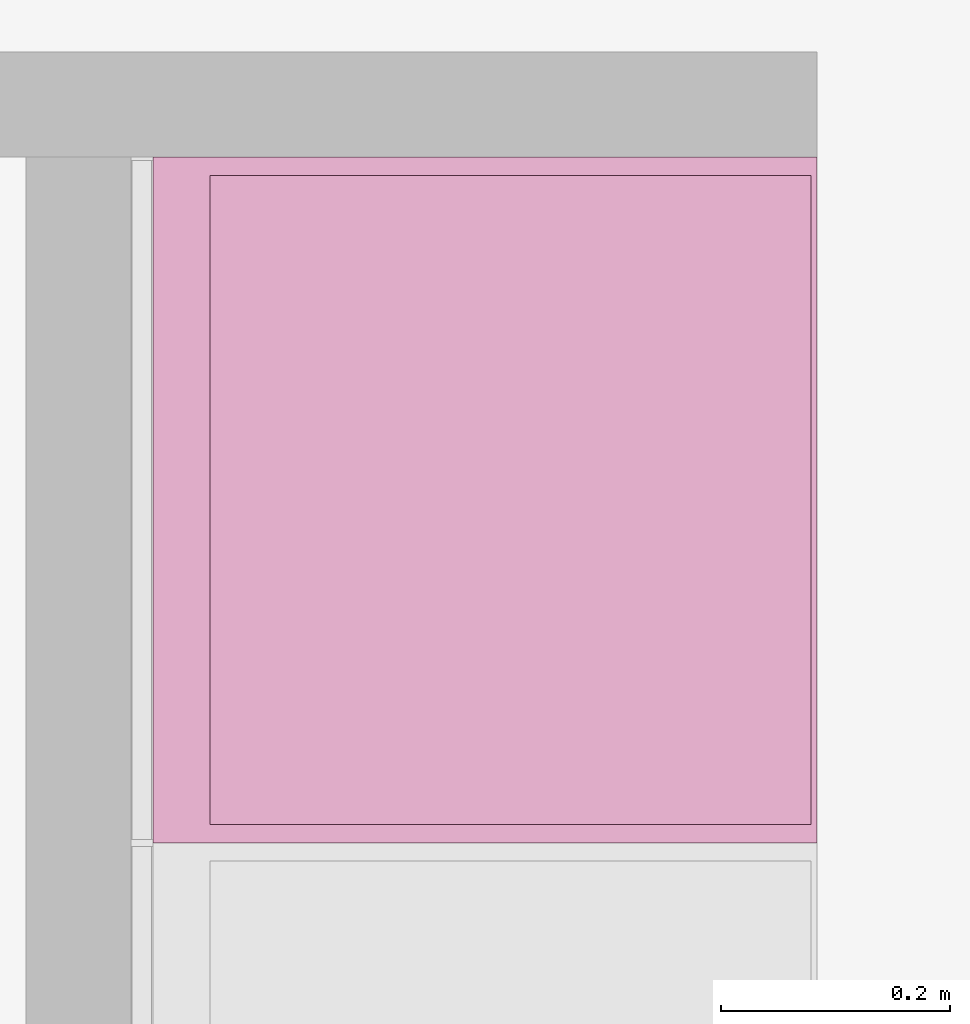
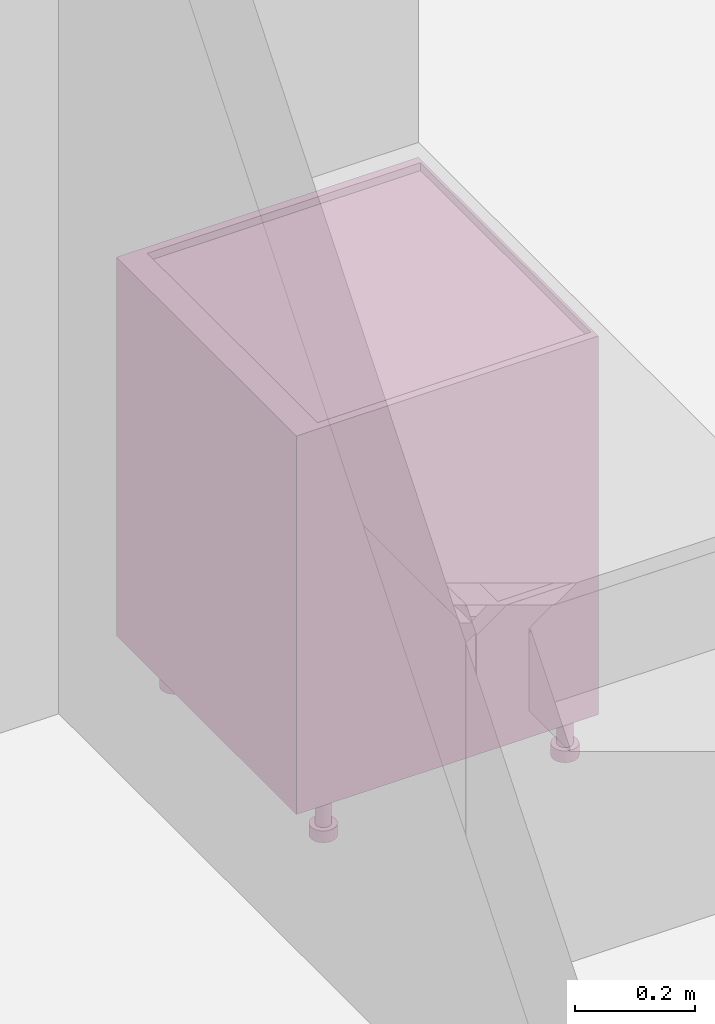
# One storey, part 74 of 125: 1 furnishing.
"""IFC2X3 building model written with IfcOpenShell, lengths in millimetres."""

import ifcopenshell
import ifcopenshell.guid

model = None  # the IFC model being written
_history = None  # IfcOwnerHistory: only IFC2X3 demands one
_inside = {}  # id of a spatial element -> (the spatial element, [elements in it])
_under = {}  # id of a project, library or spatial element -> (it, [spatial elements below it])
_declared = {}  # id of a project -> (the project, [libraries it declares])
_typed = {}  # id of a type object -> (the type object, [elements of that type])
_made_of = {}  # id of a material, layer set ... -> (it, [elements and type objects made of it])


def new_model(schema):
    """Start an empty IFC model of exactly this schema.

    Asked for "IFC4X3", IfcOpenShell would pick the latest addendum, in which some entities
    have other attributes; the version numbers below select the first issue.
    IFC2X3 requires an IfcOwnerHistory on every rooted entity: one is made here for all.
    """
    global model, _history
    if schema == "IFC4X3":
        model = ifcopenshell.file(schema_version=(4, 3, 0, 0))
    else:
        model = ifcopenshell.file(schema=schema)
    _inside.clear()
    _under.clear()
    _declared.clear()
    _typed.clear()
    _made_of.clear()
    _history = None
    if model.schema == "IFC2X3":
        org = make("IfcOrganization", Name="unknown")
        user = make(
            "IfcPersonAndOrganization",
            ThePerson=make("IfcPerson", FamilyName="unknown"),
            TheOrganization=org,
        )
        app = make(
            "IfcApplication",
            ApplicationDeveloper=org,
            Version="unknown",
            ApplicationFullName="unknown",
            ApplicationIdentifier="unknown",
        )
        _history = make(
            "IfcOwnerHistory",
            OwningUser=user,
            OwningApplication=app,
            ChangeAction="ADDED",
            CreationDate=0,
        )
    return model


def make(cls, **values):
    """One entity of the class cls with the attributes given. An attribute that is None is left unset."""
    return model.create_entity(
        cls, **{name: value for name, value in values.items() if value is not None}
    )


def entity(cls, *values):
    """Any entity or typed value of the class cls, its attributes in the order of the schema. None: left unset."""
    e = model.create_entity(cls)
    for i, value in enumerate(values):
        if value is not None:
            e[i] = value
    return e


def rooted(cls, **values):
    """An entity with a GlobalId (a new one), such as an element, a storey or a relation."""
    return make(cls, GlobalId=ifcopenshell.guid.new(), OwnerHistory=_history, **values)


def si_unit(unit_type, name, prefix=None):
    """IfcSIUnit, for example si_unit("LENGTHUNIT", "METRE", prefix="MILLI")."""
    return make("IfcSIUnit", UnitType=unit_type, Prefix=prefix, Name=name)


def converted_unit(unit_type, name, factor, base, dimensions=None, offset=None):
    """IfcConversionBasedUnit, such as the inch: factor (a typed value) times the base unit."""
    return make(
        "IfcConversionBasedUnit"
        if offset is None
        else "IfcConversionBasedUnitWithOffset",
        ConversionOffset=offset,
        Dimensions=None
        if dimensions is None
        else entity("IfcDimensionalExponents", *dimensions),
        UnitType=unit_type,
        Name=name,
        ConversionFactor=make(
            "IfcMeasureWithUnit", ValueComponent=factor, UnitComponent=base
        ),
    )


def assignment(units):
    """IfcUnitAssignment: the units of a project."""
    return None if units is None else make("IfcUnitAssignment", Units=units)


def point(xyz):
    """IfcCartesianPoint."""
    return None if xyz is None else make("IfcCartesianPoint", Coordinates=xyz)


def direction(xyz):
    """IfcDirection."""
    return None if xyz is None else make("IfcDirection", DirectionRatios=xyz)


def frame(location, z_axis=None, x_axis=None):
    """IfcAxis2Placement3D, a coordinate frame: its origin and axes. An axis left out is left unset."""
    return make(
        "IfcAxis2Placement3D",
        Location=point(location),
        Axis=direction(z_axis),
        RefDirection=direction(x_axis),
    )


def origin():
    """The frame at (0, 0, 0) with its axes left unset."""
    return frame((0.0, 0.0, 0.0))


def place(relative_to, where):
    """IfcLocalPlacement: puts the frame where relative to a parent placement (None: the world)."""
    return make(
        "IfcLocalPlacement", PlacementRelTo=relative_to, RelativePlacement=where
    )


def context(
    kind, dimensions, precision=None, world=None, true_north=None, identifier=None
):
    """IfcGeometricRepresentationContext, for example the 3D "Model" context."""
    return make(
        "IfcGeometricRepresentationContext",
        ContextIdentifier=identifier,
        ContextType=kind,
        CoordinateSpaceDimension=dimensions,
        Precision=precision,
        WorldCoordinateSystem=world,
        TrueNorth=true_north,
    )


def subcontext(parent, identifier, kind, view, scale=None):
    """IfcGeometricRepresentationSubContext, for example "Body" below "Model"."""
    return make(
        "IfcGeometricRepresentationSubContext",
        ContextIdentifier=identifier,
        ContextType=kind,
        ParentContext=parent,
        TargetScale=scale,
        TargetView=view,
    )


def project(units=None, contexts=None):
    """IfcProject with its units and contexts."""
    return rooted(
        "IfcProject",
        Name="project",
        RepresentationContexts=contexts,
        UnitsInContext=assignment(units),
    )


def spatial(cls, under=None, at=None, **own):
    """A site, building, storey or space (cls), placed at a placement, below another one or the project."""
    s = rooted(cls, ObjectPlacement=at, **own)
    if under is not None:
        _under.setdefault(under.id(), (under, []))[1].append(s)
    return s


def faces_of(points, faces, orient=None, outer=None):
    """IfcFace entities. A face is a list of loops; a loop is a list of indices into points, from 0.

    orient and outer hold one flag for each loop. By default every Orientation is true, the
    first loop of a face is its IfcFaceOuterBound and the others are IfcFaceBound.
    """
    made = []
    for i, loops in enumerate(faces):
        bounds = []
        for j, loop in enumerate(loops):
            is_outer = j == 0 if outer is None else outer[i][j]
            bounds.append(
                make(
                    "IfcFaceOuterBound" if is_outer else "IfcFaceBound",
                    Bound=make("IfcPolyLoop", Polygon=[points[k] for k in loop]),
                    Orientation=True if orient is None else orient[i][j],
                )
            )
        made.append(make("IfcFace", Bounds=bounds))
    return made


def faceted_brep(points, faces, orient=None, outer=None, voids=None):
    """IfcFacetedBrep: a solid bounded by flat faces; with voids (closed shells), ...WithVoids."""
    shared = [point(p) for p in points]
    hull = make("IfcClosedShell", CfsFaces=faces_of(shared, faces, orient, outer))
    if voids is None:
        return make("IfcFacetedBrep", Outer=hull)
    return make(
        "IfcFacetedBrepWithVoids",
        Outer=hull,
        Voids=[
            make(cls, CfsFaces=faces_of(shared, fs, o, b)) for cls, fs, o, b in voids
        ],
    )


def shape(context_of_items, identifier, shape_type, items):
    """IfcShapeRepresentation: the items that make up one representation, for example the "Body"."""
    return make(
        "IfcShapeRepresentation",
        ContextOfItems=context_of_items,
        RepresentationIdentifier=identifier,
        RepresentationType=shape_type,
        Items=items,
    )


def source(mapping_origin, context_of_items, identifier, shape_type, items):
    """IfcRepresentationMap: a shape defined once, which mapped items show again and again."""
    return make(
        "IfcRepresentationMap",
        MappingOrigin=mapping_origin,
        MappedRepresentation=shape(context_of_items, identifier, shape_type, items),
    )


def transform(
    local_origin,
    x_axis=None,
    y_axis=None,
    z_axis=None,
    scale=None,
    scale2=None,
    scale3=None,
    uniform=True,
):
    """IfcCartesianTransformationOperator3D, or its non-uniform kind. x_axis, y_axis, z_axis: its Axis1, 2, 3."""
    if uniform:
        return make(
            "IfcCartesianTransformationOperator3D",
            Axis1=direction(x_axis),
            Axis2=direction(y_axis),
            LocalOrigin=point(local_origin),
            Scale=scale,
            Axis3=direction(z_axis),
        )
    return make(
        "IfcCartesianTransformationOperator3DnonUniform",
        Axis1=direction(x_axis),
        Axis2=direction(y_axis),
        LocalOrigin=point(local_origin),
        Scale=scale,
        Axis3=direction(z_axis),
        Scale2=scale2,
        Scale3=scale3,
    )


def mapped(mapping_source, mapping_target):
    """IfcMappedItem: shows the shape of a source again, moved by a transform."""
    return make(
        "IfcMappedItem", MappingSource=mapping_source, MappingTarget=mapping_target
    )


def material(Name=None, Category=None):
    """IfcMaterial."""
    return make("IfcMaterial", Name=Name, Category=Category)


def made_of(thing, what):
    """Note that an element or type object is made of a material, layer set ...; save() writes the relation."""
    if what is not None:
        _made_of.setdefault(what.id(), (what, []))[1].append(thing)
    return thing


def type_object(cls, material=None, **own):
    """A type object (cls), such as IfcWallType, which elements share."""
    return made_of(rooted(cls, **own), material)


def type_shapes(of_type, sources):
    """Give a type object the sources (RepresentationMaps) that its elements show as mapped items."""
    of_type.RepresentationMaps = sources


def element(
    cls,
    number,
    at=None,
    inside=None,
    cuts=None,
    type_object=None,
    material=None,
    context=None,
    identifier="Body",
    shape_type=None,
    held_by="IfcProductDefinitionShape",
    body=None,
    shapes=None,
    **own,
):
    """One element of the class cls, such as IfcWall. Its Tag is "e" and its number.

    at: its placement. inside: the storey or other place that contains it. cuts: it is an
    opening in that element (IfcRelVoidsElement). A single representation is given by context,
    identifier, shape_type and body (its items); several are given by shapes. held_by: the class
    of the entity that holds the representations. save() writes the other relations.
    """
    e = rooted(cls, Tag="e%d" % number, ObjectPlacement=at, **own)
    if body is not None:
        shapes = [shape(context, identifier, shape_type, body)]
    if shapes is not None:
        e.Representation = make(held_by, Representations=shapes)
    if inside is not None:
        _inside.setdefault(inside.id(), (inside, []))[1].append(e)
    if cuts is not None:
        rooted(
            "IfcRelVoidsElement", RelatingBuildingElement=cuts, RelatedOpeningElement=e
        )
    if type_object is not None:
        _typed.setdefault(type_object.id(), (type_object, []))[1].append(e)
    return made_of(e, material)


def aggregate(whole, parts):
    """IfcRelAggregates: a whole, such as a stair, and the parts it consists of."""
    return rooted("IfcRelAggregates", RelatingObject=whole, RelatedObjects=parts)


def save(model, path):
    """Write the relations noted so far, then the file.

    IfcRelAggregates (storeys below a building ...), IfcRelContainedInSpatialStructure (elements
    in a storey), IfcRelDefinesByType, IfcRelAssociatesMaterial and IfcRelDeclares: one each for
    every whole, place, type object, material and project.
    """
    for whole, parts in _under.values():
        aggregate(whole, parts)
    for where, things in _inside.values():
        rooted(
            "IfcRelContainedInSpatialStructure",
            RelatedElements=things,
            RelatingStructure=where,
        )
    for kind, things in _typed.values():
        rooted("IfcRelDefinesByType", RelatedObjects=things, RelatingType=kind)
    for what, things in _made_of.values():
        rooted("IfcRelAssociatesMaterial", RelatedObjects=things, RelatingMaterial=what)
    for by, libraries in _declared.values():
        rooted("IfcRelDeclares", RelatingContext=by, RelatedDefinitions=libraries)
    model.write(path)


model = new_model("IFC2X3")

# Units and contexts
model_context = context("Model", 3, precision=0.01, world=origin(), true_north=direction((6.123233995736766e-17, 1.0)))
plan_context = context("Plan", 3, precision=0.01, world=origin(), true_north=direction((6.123233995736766e-17, 1.0)))
body_context = subcontext(model_context, "Body", "Model", "MODEL_VIEW")
ifc_project = project(units=[si_unit("LENGTHUNIT", "METRE", prefix="MILLI"), converted_unit("PLANEANGLEUNIT", "DEGREE", entity("IfcPlaneAngleMeasure", 0.017453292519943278), si_unit("PLANEANGLEUNIT", "RADIAN"), dimensions=[0, 0, 0, 0, 0, 0, 0]), si_unit("AREAUNIT", "SQUARE_METRE")], contexts=[model_context, plan_context])

# Site, building, storey, space
site_placement = place(None, origin())
site = spatial("IfcSite", under=ifc_project, at=site_placement, Name="Default", CompositionType="ELEMENT")
building_placement = place(site_placement, origin())
building = spatial("IfcBuilding", under=site, at=building_placement, CompositionType="ELEMENT")
storey_placement = place(building_placement, frame((0.0, 0.0, 3125.0)))
storey = spatial("IfcBuildingStorey", under=building, at=storey_placement, Name="2K", CompositionType="ELEMENT", Elevation=3125.0)
space_placement = place(storey_placement, origin())
space = spatial("IfcSpace", under=storey, at=space_placement, Name="2-2.2", CompositionType="ELEMENT", InteriorOrExteriorSpace="INTERNAL")

# Furnishing
ifc_material = material(Name="<Unnamed>")
furniture_type = type_object("IfcFurnitureType", Name="HR_Casework_Kitchen_Generic_Appliance_v1:Fridge", AssemblyPlace="NOTDEFINED", material=ifc_material)
shared_shape = source(origin(), body_context, "Body", "Brep", [
    faceted_brep([(305.7003264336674, -585.7846096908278, -3101.0), (310.6708891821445, -581.9705627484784, -3101.0), (300.70032643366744, -577.1243556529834, -3101.0), (297.32379306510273, -578.5229615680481, -3101.0), (299.91198351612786, -588.1822198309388, -3101.0), (303.59982137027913, -574.8994949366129, -3101.0), (314.4849361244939, -577.0, -3101.0), (305.82468208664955, -572.0, -3101.0), (307.2232880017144, -568.6234666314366, -3101.0), (316.8825462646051, -571.2116570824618, -3101.0), (307.70032643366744, -565.0, -3101.0), (317.7003264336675, -565.0, -3101.0), (307.2232880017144, -561.3765333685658, -3101.0), (316.88254626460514, -558.7883429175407, -3101.0), (305.82468208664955, -558.0, -3101.0), (314.484936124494, -553.0, -3101.0), (303.59982137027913, -555.1005050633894, -3101.0), (310.67088918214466, -548.0294372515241, -3101.0), (300.70032643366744, -552.875644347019, -3101.0), (305.7003264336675, -544.2153903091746, -3101.0), (297.32379306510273, -551.4770384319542, -3101.0), (299.91198351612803, -541.8177801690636, -3101.0), (293.7003264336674, -551.0, -3101.0), (293.70032643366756, -541.0, -3101.0), (290.07685980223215, -551.4770384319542, -3101.0), (287.488669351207, -541.8177801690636, -3101.0), (286.70032643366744, -552.875644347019, -3101.0), (281.7003264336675, -544.2153903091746, -3101.0), (283.80083149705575, -555.1005050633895, -3101.0), (276.7297636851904, -548.029437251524, -3101.0), (281.5759707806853, -558.0, -3101.0), (272.91571674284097, -553.0, -3101.0), (270.51810660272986, -558.7883429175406, -3101.0), (280.1773648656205, -561.3765333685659, -3101.0), (269.7003264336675, -565.0, -3101.0), (279.7003264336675, -565.0, -3101.0), (270.51810660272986, -571.2116570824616, -3101.0), (280.1773648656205, -568.6234666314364, -3101.0), (272.9157167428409, -577.0, -3101.0), (281.57597078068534, -572.0, -3101.0), (276.7297636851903, -581.9705627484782, -3101.0), (283.80083149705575, -574.8994949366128, -3101.0), (281.70032643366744, -585.7846096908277, -3101.0), (286.70032643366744, -577.1243556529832, -3101.0), (287.4886693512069, -588.1822198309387, -3101.0), (290.07685980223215, -578.5229615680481, -3101.0), (293.7003264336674, -589.0, -3101.0), (293.70032643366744, -579.0, -3101.0), (299.91198351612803, -541.8177801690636, -3125.0), (305.7003264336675, -544.2153903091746, -3125.0), (310.67088918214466, -548.0294372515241, -3125.0), (314.484936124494, -553.0, -3125.0), (316.88254626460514, -558.7883429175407, -3125.0), (317.7003264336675, -565.0, -3125.0), (316.8825462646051, -571.2116570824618, -3125.0), (314.4849361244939, -577.0, -3125.0), (310.6708891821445, -581.9705627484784, -3125.0), (305.7003264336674, -585.7846096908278, -3125.0), (299.91198351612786, -588.1822198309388, -3125.0), (293.7003264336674, -589.0, -3125.0), (287.4886693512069, -588.1822198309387, -3125.0), (281.70032643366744, -585.7846096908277, -3125.0), (276.7297636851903, -581.9705627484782, -3125.0), (272.9157167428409, -577.0, -3125.0), (270.51810660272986, -571.2116570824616, -3125.0), (269.7003264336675, -565.0, -3125.0), (270.51810660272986, -558.7883429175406, -3125.0), (272.91571674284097, -553.0, -3125.0), (276.7297636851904, -548.029437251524, -3125.0), (281.7003264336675, -544.2153903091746, -3125.0), (287.488669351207, -541.8177801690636, -3125.0), (293.70032643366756, -541.0, -3125.0), (297.32379306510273, -578.5229615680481, -3025.0), (300.70032643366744, -577.1243556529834, -3025.0), (303.59982137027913, -574.8994949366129, -3025.0), (305.8246820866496, -572.0, -3025.0), (307.2232880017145, -568.6234666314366, -3025.0), (307.70032643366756, -565.0, -3025.0), (307.2232880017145, -561.3765333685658, -3025.0), (305.8246820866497, -558.0, -3025.0), (303.5998213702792, -555.1005050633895, -3025.0), (300.70032643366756, -552.875644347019, -3025.0), (297.32379306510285, -551.4770384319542, -3025.0), (293.70032643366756, -551.0, -3025.0), (290.07685980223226, -551.4770384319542, -3025.0), (286.70032643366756, -552.875644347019, -3025.0), (283.80083149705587, -555.1005050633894, -3025.0), (281.5759707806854, -558.0, -3025.0), (280.1773648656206, -561.3765333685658, -3025.0), (279.70032643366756, -565.0, -3025.0), (280.1773648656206, -568.6234666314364, -3025.0), (281.5759707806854, -572.0, -3025.0), (283.8008314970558, -574.8994949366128, -3025.0), (286.7003264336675, -577.1243556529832, -3025.0), (290.07685980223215, -578.5229615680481, -3025.0), (293.70032643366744, -579.0, -3025.0)], [[[0, 1, 2]], [[0, 2, 3]], [[3, 4, 0]], [[2, 1, 5]], [[6, 5, 1]], [[7, 5, 6]], [[8, 7, 6]], [[8, 6, 9]], [[8, 9, 10]], [[10, 9, 11]], [[12, 10, 11]], [[12, 11, 13]], [[14, 12, 13]], [[14, 13, 15]], [[16, 14, 15]], [[15, 17, 16]], [[17, 18, 16]], [[18, 17, 19]], [[18, 19, 20]], [[21, 20, 19]], [[20, 21, 22]], [[22, 21, 23]], [[23, 24, 22]], [[24, 23, 25]], [[24, 25, 26]], [[27, 26, 25]], [[27, 28, 26]], [[27, 29, 28]], [[30, 28, 29]], [[31, 30, 29]], [[32, 30, 31]], [[33, 30, 32]], [[33, 32, 34]], [[34, 35, 33]], [[36, 35, 34]], [[36, 37, 35]], [[37, 36, 38]], [[39, 37, 38]], [[39, 38, 40]], [[39, 40, 41]], [[40, 42, 41]], [[41, 42, 43]], [[43, 42, 44]], [[44, 45, 43]], [[46, 45, 44]], [[4, 47, 46]], [[45, 46, 47]], [[4, 3, 47]], [[48, 49, 50, 51, 52, 53, 54, 55, 56, 57, 58, 59, 60, 61, 62, 63, 64, 65, 66, 67, 68, 69, 70, 71]], [[64, 36, 34, 65]], [[63, 38, 36, 64]], [[42, 40, 62, 61]], [[63, 62, 40, 38]], [[44, 42, 61, 60]], [[46, 44, 60, 59]], [[58, 4, 46, 59]], [[57, 0, 4, 58]], [[54, 53, 11, 9]], [[1, 0, 57, 56]], [[6, 55, 54, 9]], [[6, 1, 56, 55]], [[52, 13, 11, 53]], [[51, 15, 13, 52]], [[19, 17, 50, 49]], [[51, 50, 17, 15]], [[21, 19, 49, 48]], [[23, 21, 48, 71]], [[27, 69, 68, 29]], [[31, 67, 66, 32]], [[68, 67, 31, 29]], [[32, 66, 65, 34]], [[25, 70, 69, 27]], [[70, 25, 23, 71]], [[72, 73, 74, 75, 76, 77, 78, 79, 80, 81, 82, 83, 84, 85, 86, 87, 88, 89, 90, 91, 92, 93, 94, 95]], [[37, 39, 91, 90]], [[35, 37, 90, 89]], [[43, 45, 94, 93]], [[41, 43, 93, 92]], [[39, 41, 92, 91]], [[47, 95, 94, 45]], [[2, 5, 74, 73]], [[3, 2, 73, 72]], [[8, 10, 77, 76]], [[7, 8, 76, 75]], [[5, 7, 75, 74]], [[3, 72, 95, 47]], [[79, 78, 12, 14]], [[78, 77, 10, 12]], [[80, 16, 18, 81]], [[16, 80, 79, 14]], [[81, 18, 20, 82]], [[22, 83, 82, 20]], [[26, 28, 86, 85]], [[24, 26, 85, 84]], [[33, 35, 89, 88]], [[30, 33, 88, 87]], [[28, 30, 87, 86]], [[24, 84, 83, 22]]]),
    faceted_brep([(-192.29967356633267, -585.7846096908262, -3101.0), (-187.3291108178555, -581.9705627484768, -3101.0), (-197.29967356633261, -577.1243556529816, -3101.0), (-200.67620693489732, -578.5229615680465, -3101.0), (-198.08801648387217, -588.1822198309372, -3101.0), (-194.40017862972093, -574.8994949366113, -3101.0), (-183.51506387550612, -577.0, -3101.0), (-192.17531791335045, -572.0, -3101.0), (-190.77671199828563, -568.6234666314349, -3101.0), (-181.11745373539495, -571.2116570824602, -3101.0), (-190.29967356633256, -565.0, -3101.0), (-180.29967356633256, -565.0, -3101.0), (-190.77671199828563, -561.3765333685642, -3101.0), (-181.11745373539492, -558.788342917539, -3101.0), (-192.17531791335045, -558.0, -3101.0), (-183.515063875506, -553.0, -3101.0), (-194.40017862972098, -555.1005050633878, -3101.0), (-187.3291108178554, -548.0294372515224, -3101.0), (-197.29967356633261, -552.8756443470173, -3101.0), (-192.29967356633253, -544.215390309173, -3101.0), (-200.67620693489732, -551.4770384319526, -3101.0), (-198.08801648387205, -541.8177801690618, -3101.0), (-204.29967356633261, -551.0, -3101.0), (-204.29967356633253, -541.0, -3101.0), (-207.92314019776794, -551.4770384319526, -3101.0), (-210.51133064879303, -541.8177801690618, -3101.0), (-211.29967356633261, -552.8756443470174, -3101.0), (-216.29967356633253, -544.215390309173, -3101.0), (-214.19916850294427, -555.1005050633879, -3101.0), (-221.27023631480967, -548.0294372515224, -3101.0), (-216.42402921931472, -558.0, -3101.0), (-225.08428325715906, -553.0, -3101.0), (-227.48189339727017, -558.788342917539, -3101.0), (-217.8226351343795, -561.3765333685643, -3101.0), (-228.2996735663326, -565.0, -3101.0), (-218.29967356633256, -565.0, -3101.0), (-227.48189339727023, -571.21165708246, -3101.0), (-217.8226351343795, -568.6234666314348, -3101.0), (-225.08428325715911, -577.0, -3101.0), (-216.42402921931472, -572.0, -3101.0), (-221.27023631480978, -581.9705627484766, -3101.0), (-214.19916850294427, -574.8994949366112, -3101.0), (-216.29967356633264, -585.784609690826, -3101.0), (-211.29967356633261, -577.1243556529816, -3101.0), (-210.51133064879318, -588.1822198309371, -3101.0), (-207.9231401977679, -578.5229615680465, -3101.0), (-204.2996735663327, -589.0, -3101.0), (-204.29967356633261, -579.0, -3101.0), (-198.08801648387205, -541.8177801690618, -3125.0), (-192.29967356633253, -544.215390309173, -3125.0), (-187.3291108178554, -548.0294372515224, -3125.0), (-183.515063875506, -553.0, -3125.0), (-181.11745373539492, -558.788342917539, -3125.0), (-180.29967356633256, -565.0, -3125.0), (-181.11745373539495, -571.2116570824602, -3125.0), (-183.51506387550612, -577.0, -3125.0), (-187.3291108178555, -581.9705627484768, -3125.0), (-192.29967356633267, -585.7846096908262, -3125.0), (-198.08801648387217, -588.1822198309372, -3125.0), (-204.2996735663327, -589.0, -3125.0), (-210.51133064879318, -588.1822198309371, -3125.0), (-216.29967356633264, -585.784609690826, -3125.0), (-221.27023631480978, -581.9705627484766, -3125.0), (-225.08428325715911, -577.0, -3125.0), (-227.48189339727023, -571.21165708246, -3125.0), (-228.2996735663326, -565.0, -3125.0), (-227.48189339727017, -558.788342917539, -3125.0), (-225.08428325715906, -553.0, -3125.0), (-221.27023631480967, -548.0294372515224, -3125.0), (-216.29967356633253, -544.215390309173, -3125.0), (-210.51133064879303, -541.8177801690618, -3125.0), (-204.29967356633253, -541.0, -3125.0), (-200.67620693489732, -578.5229615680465, -3025.0), (-197.29967356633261, -577.1243556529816, -3025.0), (-194.40017862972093, -574.8994949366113, -3025.0), (-192.17531791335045, -572.0, -3025.0), (-190.77671199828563, -568.6234666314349, -3025.0), (-190.29967356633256, -565.0, -3025.0), (-190.77671199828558, -561.3765333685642, -3025.0), (-192.1753179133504, -558.0, -3025.0), (-194.40017862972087, -555.1005050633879, -3025.0), (-197.29967356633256, -552.8756443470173, -3025.0), (-200.67620693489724, -551.4770384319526, -3025.0), (-204.29967356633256, -551.0, -3025.0), (-207.92314019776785, -551.4770384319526, -3025.0), (-211.29967356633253, -552.8756443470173, -3025.0), (-214.1991685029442, -555.1005050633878, -3025.0), (-216.4240292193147, -558.0, -3025.0), (-217.8226351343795, -561.3765333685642, -3025.0), (-218.29967356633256, -565.0, -3025.0), (-217.8226351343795, -568.6234666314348, -3025.0), (-216.42402921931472, -572.0, -3025.0), (-214.19916850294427, -574.8994949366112, -3025.0), (-211.2996735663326, -577.1243556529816, -3025.0), (-207.9231401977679, -578.5229615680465, -3025.0), (-204.29967356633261, -579.0, -3025.0)], [[[0, 1, 2]], [[0, 2, 3]], [[3, 4, 0]], [[2, 1, 5]], [[6, 5, 1]], [[7, 5, 6]], [[8, 7, 6]], [[8, 6, 9]], [[8, 9, 10]], [[10, 9, 11]], [[12, 10, 11]], [[12, 11, 13]], [[14, 12, 13]], [[14, 13, 15]], [[16, 14, 15]], [[15, 17, 16]], [[17, 18, 16]], [[18, 17, 19]], [[18, 19, 20]], [[21, 20, 19]], [[20, 21, 22]], [[22, 21, 23]], [[23, 24, 22]], [[24, 23, 25]], [[24, 25, 26]], [[27, 26, 25]], [[27, 28, 26]], [[27, 29, 28]], [[30, 28, 29]], [[31, 30, 29]], [[32, 30, 31]], [[33, 30, 32]], [[33, 32, 34]], [[34, 35, 33]], [[36, 35, 34]], [[36, 37, 35]], [[37, 36, 38]], [[39, 37, 38]], [[39, 38, 40]], [[39, 40, 41]], [[40, 42, 41]], [[41, 42, 43]], [[43, 42, 44]], [[44, 45, 43]], [[46, 45, 44]], [[4, 47, 46]], [[45, 46, 47]], [[4, 3, 47]], [[48, 49, 50, 51, 52, 53, 54, 55, 56, 57, 58, 59, 60, 61, 62, 63, 64, 65, 66, 67, 68, 69, 70, 71]], [[64, 36, 34, 65]], [[63, 38, 36, 64]], [[42, 40, 62, 61]], [[63, 62, 40, 38]], [[44, 42, 61, 60]], [[46, 44, 60, 59]], [[58, 4, 46, 59]], [[57, 0, 4, 58]], [[54, 53, 11, 9]], [[1, 0, 57, 56]], [[6, 55, 54, 9]], [[6, 1, 56, 55]], [[52, 13, 11, 53]], [[51, 15, 13, 52]], [[19, 17, 50, 49]], [[51, 50, 17, 15]], [[21, 19, 49, 48]], [[23, 21, 48, 71]], [[27, 69, 68, 29]], [[31, 67, 66, 32]], [[68, 67, 31, 29]], [[32, 66, 65, 34]], [[25, 70, 69, 27]], [[70, 25, 23, 71]], [[72, 73, 74, 75, 76, 77, 78, 79, 80, 81, 82, 83, 84, 85, 86, 87, 88, 89, 90, 91, 92, 93, 94, 95]], [[37, 39, 91, 90]], [[35, 37, 90, 89]], [[43, 45, 94, 93]], [[41, 43, 93, 92]], [[39, 41, 92, 91]], [[47, 95, 94, 45]], [[2, 5, 74, 73]], [[3, 2, 73, 72]], [[8, 10, 77, 76]], [[7, 8, 76, 75]], [[5, 7, 75, 74]], [[3, 72, 95, 47]], [[79, 78, 12, 14]], [[78, 77, 10, 12]], [[80, 16, 18, 81]], [[16, 80, 79, 14]], [[81, 18, 20, 82]], [[22, 83, 82, 20]], [[26, 28, 86, 85]], [[24, 26, 85, 84]], [[33, 35, 89, 88]], [[30, 33, 88, 87]], [[28, 30, 87, 86]], [[24, 84, 83, 22]]]),
    faceted_brep([(305.70032643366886, -120.78460969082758, -3101.0), (310.670889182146, -116.97056274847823, -3101.0), (300.7003264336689, -112.12435565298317, -3101.0), (297.3237930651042, -113.52296156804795, -3101.0), (299.91198351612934, -123.18221983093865, -3101.0), (303.5998213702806, -109.8994949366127, -3101.0), (314.48493612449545, -112.0, -3101.0), (305.824682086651, -107.0, -3101.0), (307.2232880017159, -103.62346663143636, -3101.0), (316.88254626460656, -106.21165708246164, -3101.0), (307.700326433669, -100.0, -3101.0), (317.700326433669, -100.0, -3101.0), (307.2232880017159, -96.3765333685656, -3101.0), (316.8825462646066, -93.78834291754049, -3101.0), (305.824682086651, -93.0, -3101.0), (314.4849361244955, -88.0, -3101.0), (303.5998213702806, -90.10050506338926, -3101.0), (310.67088918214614, -83.02943725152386, -3101.0), (300.7003264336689, -87.8756443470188, -3101.0), (305.700326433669, -79.21539030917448, -3101.0), (297.3237930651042, -86.477038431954, -3101.0), (299.9119835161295, -76.81778016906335, -3101.0), (293.70032643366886, -86.0, -3101.0), (293.70032643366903, -76.0, -3101.0), (290.0768598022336, -86.47703843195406, -3101.0), (287.4886693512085, -76.81778016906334, -3101.0), (286.7003264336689, -87.87564434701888, -3101.0), (281.700326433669, -79.21539030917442, -3101.0), (283.8008314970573, -90.10050506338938, -3101.0), (276.72976368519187, -83.0294372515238, -3101.0), (281.5759707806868, -93.0, -3101.0), (272.91571674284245, -88.0, -3101.0), (270.51810660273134, -93.78834291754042, -3101.0), (280.177364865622, -96.37653336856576, -3101.0), (269.700326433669, -100.0, -3101.0), (279.700326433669, -100.0, -3101.0), (270.51810660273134, -106.2116570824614, -3101.0), (280.177364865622, -103.62346663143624, -3101.0), (272.9157167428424, -112.0, -3101.0), (281.5759707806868, -107.0, -3101.0), (276.72976368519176, -116.97056274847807, -3101.0), (283.8008314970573, -109.89949493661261, -3101.0), (281.7003264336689, -120.78460969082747, -3101.0), (286.7003264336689, -112.1243556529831, -3101.0), (287.4886693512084, -123.1822198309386, -3101.0), (290.0768598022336, -113.52296156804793, -3101.0), (293.70032643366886, -124.0, -3101.0), (293.7003264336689, -114.0, -3101.0), (299.9119835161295, -76.81778016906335, -3125.0), (305.700326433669, -79.21539030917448, -3125.0), (310.67088918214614, -83.02943725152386, -3125.0), (314.4849361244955, -88.0, -3125.0), (316.8825462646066, -93.78834291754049, -3125.0), (317.700326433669, -100.0, -3125.0), (316.88254626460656, -106.21165708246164, -3125.0), (314.48493612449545, -112.0, -3125.0), (310.670889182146, -116.97056274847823, -3125.0), (305.70032643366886, -120.78460969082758, -3125.0), (299.91198351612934, -123.18221983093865, -3125.0), (293.70032643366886, -124.0, -3125.0), (287.4886693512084, -123.1822198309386, -3125.0), (281.7003264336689, -120.78460969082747, -3125.0), (276.72976368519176, -116.97056274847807, -3125.0), (272.9157167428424, -112.0, -3125.0), (270.51810660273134, -106.2116570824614, -3125.0), (269.700326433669, -100.0, -3125.0), (270.51810660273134, -93.78834291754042, -3125.0), (272.91571674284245, -88.0, -3125.0), (276.72976368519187, -83.0294372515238, -3125.0), (281.700326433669, -79.21539030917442, -3125.0), (287.4886693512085, -76.81778016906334, -3125.0), (293.70032643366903, -76.0, -3125.0), (297.32379306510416, -113.52296156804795, -3025.0), (300.70032643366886, -112.12435565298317, -3025.0), (303.59982137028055, -109.8994949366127, -3025.0), (305.824682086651, -107.0, -3025.0), (307.22328800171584, -103.62346663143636, -3025.0), (307.700326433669, -100.0, -3025.0), (307.2232880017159, -96.3765333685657, -3025.0), (305.82468208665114, -93.0, -3025.0), (303.5998213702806, -90.10050506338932, -3025.0), (300.700326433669, -87.87564434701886, -3025.0), (297.32379306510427, -86.47703843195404, -3025.0), (293.700326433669, -86.0, -3025.0), (290.0768598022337, -86.47703843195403, -3025.0), (286.700326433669, -87.87564434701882, -3025.0), (283.8008314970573, -90.1005050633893, -3025.0), (281.5759707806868, -93.0, -3025.0), (280.177364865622, -96.37653336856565, -3025.0), (279.700326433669, -100.0, -3025.0), (280.177364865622, -103.62346663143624, -3025.0), (281.5759707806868, -107.0, -3025.0), (283.80083149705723, -109.89949493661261, -3025.0), (286.7003264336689, -112.1243556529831, -3025.0), (290.07685980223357, -113.52296156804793, -3025.0), (293.70032643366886, -114.0, -3025.0)], [[[0, 1, 2]], [[0, 2, 3]], [[3, 4, 0]], [[2, 1, 5]], [[6, 5, 1]], [[7, 5, 6]], [[8, 7, 6]], [[8, 6, 9]], [[8, 9, 10]], [[10, 9, 11]], [[12, 10, 11]], [[12, 11, 13]], [[14, 12, 13]], [[14, 13, 15]], [[16, 14, 15]], [[15, 17, 16]], [[17, 18, 16]], [[18, 17, 19]], [[18, 19, 20]], [[21, 20, 19]], [[20, 21, 22]], [[22, 21, 23]], [[23, 24, 22]], [[24, 23, 25]], [[24, 25, 26]], [[27, 26, 25]], [[27, 28, 26]], [[27, 29, 28]], [[30, 28, 29]], [[31, 30, 29]], [[32, 30, 31]], [[33, 30, 32]], [[33, 32, 34]], [[34, 35, 33]], [[36, 35, 34]], [[36, 37, 35]], [[37, 36, 38]], [[39, 37, 38]], [[39, 38, 40]], [[39, 40, 41]], [[40, 42, 41]], [[41, 42, 43]], [[43, 42, 44]], [[44, 45, 43]], [[46, 45, 44]], [[4, 47, 46]], [[45, 46, 47]], [[4, 3, 47]], [[48, 49, 50, 51, 52, 53, 54, 55, 56, 57, 58, 59, 60, 61, 62, 63, 64, 65, 66, 67, 68, 69, 70, 71]], [[64, 36, 34, 65]], [[63, 38, 36, 64]], [[42, 40, 62, 61]], [[63, 62, 40, 38]], [[44, 42, 61, 60]], [[46, 44, 60, 59]], [[58, 4, 46, 59]], [[57, 0, 4, 58]], [[54, 53, 11, 9]], [[1, 0, 57, 56]], [[6, 55, 54, 9]], [[6, 1, 56, 55]], [[52, 13, 11, 53]], [[51, 15, 13, 52]], [[19, 17, 50, 49]], [[51, 50, 17, 15]], [[21, 19, 49, 48]], [[23, 21, 48, 71]], [[27, 69, 68, 29]], [[31, 67, 66, 32]], [[68, 67, 31, 29]], [[32, 66, 65, 34]], [[25, 70, 69, 27]], [[70, 25, 23, 71]], [[72, 73, 74, 75, 76, 77, 78, 79, 80, 81, 82, 83, 84, 85, 86, 87, 88, 89, 90, 91, 92, 93, 94, 95]], [[37, 39, 91, 90]], [[35, 37, 90, 89]], [[43, 45, 94, 93]], [[41, 43, 93, 92]], [[39, 41, 92, 91]], [[47, 95, 94, 45]], [[2, 5, 74, 73]], [[3, 2, 73, 72]], [[8, 10, 77, 76]], [[7, 8, 76, 75]], [[5, 7, 75, 74]], [[3, 72, 95, 47]], [[79, 78, 12, 14]], [[78, 77, 10, 12]], [[80, 16, 18, 81]], [[16, 80, 79, 14]], [[81, 18, 20, 82]], [[22, 83, 82, 20]], [[26, 28, 86, 85]], [[24, 26, 85, 84]], [[33, 35, 89, 88]], [[30, 33, 88, 87]], [[28, 30, 87, 86]], [[24, 84, 83, 22]]]),
    faceted_brep([(-192.299673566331, -120.78460969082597, -3101.0), (-187.3291108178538, -116.97056274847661, -3101.0), (-197.29967356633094, -112.12435565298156, -3101.0), (-200.67620693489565, -113.52296156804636, -3101.0), (-198.0880164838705, -123.18221983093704, -3101.0), (-194.40017862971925, -109.89949493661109, -3101.0), (-183.5150638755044, -112.0, -3101.0), (-192.17531791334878, -107.0, -3101.0), (-190.77671199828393, -103.62346663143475, -3101.0), (-181.11745373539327, -106.21165708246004, -3101.0), (-190.29967356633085, -100.0, -3101.0), (-180.29967356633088, -100.0, -3101.0), (-190.77671199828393, -96.376533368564, -3101.0), (-181.11745373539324, -93.78834291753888, -3101.0), (-192.17531791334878, -93.0, -3101.0), (-183.51506387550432, -88.0, -3101.0), (-194.40017862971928, -90.10050506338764, -3101.0), (-187.32911081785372, -83.02943725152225, -3101.0), (-197.29967356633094, -87.8756443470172, -3101.0), (-192.29967356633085, -79.21539030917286, -3101.0), (-200.67620693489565, -86.4770384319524, -3101.0), (-198.08801648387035, -76.81778016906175, -3101.0), (-204.29967356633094, -86.0, -3101.0), (-204.29967356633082, -76.0, -3101.0), (-207.92314019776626, -86.47703843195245, -3101.0), (-210.51133064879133, -76.81778016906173, -3101.0), (-211.29967356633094, -87.87564434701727, -3101.0), (-216.29967356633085, -79.21539030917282, -3101.0), (-214.19916850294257, -90.10050506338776, -3101.0), (-221.270236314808, -83.0294372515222, -3101.0), (-216.424029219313, -93.0, -3101.0), (-225.08428325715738, -88.0, -3101.0), (-227.4818933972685, -93.78834291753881, -3101.0), (-217.82263513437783, -96.37653336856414, -3101.0), (-228.29967356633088, -100.0, -3101.0), (-218.29967356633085, -100.0, -3101.0), (-227.48189339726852, -106.2116570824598, -3101.0), (-217.82263513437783, -103.62346663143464, -3101.0), (-225.08428325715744, -112.0, -3101.0), (-216.424029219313, -107.0, -3101.0), (-221.27023631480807, -116.97056274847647, -3101.0), (-214.19916850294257, -109.899494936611, -3101.0), (-216.29967356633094, -120.78460969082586, -3101.0), (-211.29967356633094, -112.12435565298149, -3101.0), (-210.51133064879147, -123.18221983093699, -3101.0), (-207.9231401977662, -113.52296156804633, -3101.0), (-204.299673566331, -124.0, -3101.0), (-204.29967356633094, -114.0, -3101.0), (-198.08801648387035, -76.81778016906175, -3125.0), (-192.29967356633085, -79.21539030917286, -3125.0), (-187.32911081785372, -83.02943725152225, -3125.0), (-183.51506387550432, -88.0, -3125.0), (-181.11745373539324, -93.78834291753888, -3125.0), (-180.29967356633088, -100.0, -3125.0), (-181.11745373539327, -106.21165708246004, -3125.0), (-183.5150638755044, -112.0, -3125.0), (-187.3291108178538, -116.97056274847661, -3125.0), (-192.299673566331, -120.78460969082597, -3125.0), (-198.0880164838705, -123.18221983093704, -3125.0), (-204.299673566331, -124.0, -3125.0), (-210.51133064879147, -123.18221983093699, -3125.0), (-216.29967356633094, -120.78460969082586, -3125.0), (-221.27023631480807, -116.97056274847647, -3125.0), (-225.08428325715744, -112.0, -3125.0), (-227.48189339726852, -106.2116570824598, -3125.0), (-228.29967356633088, -100.0, -3125.0), (-227.4818933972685, -93.78834291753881, -3125.0), (-225.08428325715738, -88.0, -3125.0), (-221.270236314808, -83.0294372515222, -3125.0), (-216.29967356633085, -79.21539030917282, -3125.0), (-210.51133064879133, -76.81778016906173, -3125.0), (-204.29967356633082, -76.0, -3125.0), (-200.67620693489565, -113.52296156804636, -3025.0), (-197.29967356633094, -112.12435565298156, -3025.0), (-194.40017862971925, -109.89949493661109, -3025.0), (-192.17531791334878, -107.0, -3025.0), (-190.77671199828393, -103.62346663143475, -3025.0), (-190.29967356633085, -100.0, -3025.0), (-190.7767119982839, -96.3765333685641, -3025.0), (-192.1753179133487, -93.0, -3025.0), (-194.4001786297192, -90.10050506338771, -3025.0), (-197.29967356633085, -87.87564434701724, -3025.0), (-200.67620693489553, -86.47703843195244, -3025.0), (-204.29967356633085, -86.0, -3025.0), (-207.92314019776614, -86.47703843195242, -3025.0), (-211.29967356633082, -87.87564434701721, -3025.0), (-214.1991685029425, -90.10050506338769, -3025.0), (-216.42402921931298, -93.0, -3025.0), (-217.82263513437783, -96.37653336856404, -3025.0), (-218.29967356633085, -100.0, -3025.0), (-217.82263513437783, -103.62346663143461, -3025.0), (-216.424029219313, -107.0, -3025.0), (-214.19916850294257, -109.899494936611, -3025.0), (-211.29967356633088, -112.12435565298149, -3025.0), (-207.9231401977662, -113.52296156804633, -3025.0), (-204.29967356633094, -114.0, -3025.0)], [[[0, 1, 2]], [[0, 2, 3]], [[3, 4, 0]], [[2, 1, 5]], [[6, 5, 1]], [[7, 5, 6]], [[8, 7, 6]], [[8, 6, 9]], [[8, 9, 10]], [[10, 9, 11]], [[12, 10, 11]], [[12, 11, 13]], [[14, 12, 13]], [[14, 13, 15]], [[16, 14, 15]], [[15, 17, 16]], [[17, 18, 16]], [[18, 17, 19]], [[18, 19, 20]], [[21, 20, 19]], [[20, 21, 22]], [[22, 21, 23]], [[23, 24, 22]], [[24, 23, 25]], [[24, 25, 26]], [[27, 26, 25]], [[27, 28, 26]], [[27, 29, 28]], [[30, 28, 29]], [[31, 30, 29]], [[32, 30, 31]], [[33, 30, 32]], [[33, 32, 34]], [[34, 35, 33]], [[36, 35, 34]], [[36, 37, 35]], [[37, 36, 38]], [[39, 37, 38]], [[39, 38, 40]], [[39, 40, 41]], [[40, 42, 41]], [[41, 42, 43]], [[43, 42, 44]], [[44, 45, 43]], [[46, 45, 44]], [[4, 47, 46]], [[45, 46, 47]], [[4, 3, 47]], [[48, 49, 50, 51, 52, 53, 54, 55, 56, 57, 58, 59, 60, 61, 62, 63, 64, 65, 66, 67, 68, 69, 70, 71]], [[64, 36, 34, 65]], [[63, 38, 36, 64]], [[42, 40, 62, 61]], [[63, 62, 40, 38]], [[44, 42, 61, 60]], [[46, 44, 60, 59]], [[58, 4, 46, 59]], [[57, 0, 4, 58]], [[54, 53, 11, 9]], [[1, 0, 57, 56]], [[6, 55, 54, 9]], [[6, 1, 56, 55]], [[52, 13, 11, 53]], [[51, 15, 13, 52]], [[19, 17, 50, 49]], [[51, 50, 17, 15]], [[21, 19, 49, 48]], [[23, 21, 48, 71]], [[27, 69, 68, 29]], [[31, 67, 66, 32]], [[68, 67, 31, 29]], [[32, 66, 65, 34]], [[25, 70, 69, 27]], [[70, 25, 23, 71]], [[72, 73, 74, 75, 76, 77, 78, 79, 80, 81, 82, 83, 84, 85, 86, 87, 88, 89, 90, 91, 92, 93, 94, 95]], [[37, 39, 91, 90]], [[35, 37, 90, 89]], [[43, 45, 94, 93]], [[41, 43, 93, 92]], [[39, 41, 92, 91]], [[47, 95, 94, 45]], [[2, 5, 74, 73]], [[3, 2, 73, 72]], [[8, 10, 77, 76]], [[7, 8, 76, 75]], [[5, 7, 75, 74]], [[3, 72, 95, 47]], [[79, 78, 12, 14]], [[78, 77, 10, 12]], [[80, 16, 18, 81]], [[16, 80, 79, 14]], [[81, 18, 20, 82]], [[22, 83, 82, 20]], [[26, 28, 86, 85]], [[24, 26, 85, 84]], [[33, 35, 89, 88]], [[30, 33, 88, 87]], [[28, 30, 87, 86]], [[24, 84, 83, 22]]]),
    faceted_brep([(328.70032643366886, -19.0, -3009.0), (-239.2996735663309, -19.0, -3009.0), (-239.29967356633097, -595.0, -3009.0), (328.70032643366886, -595.0, -3009.0), (328.70032643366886, -19.0, -3025.0), (328.70032643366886, -595.0, -3025.0), (-239.29967356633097, -595.0, -3025.0), (-239.29967356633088, -19.0, -3025.0)], [[[0, 1, 2, 3]], [[4, 5, 6, 7]], [[1, 0, 4, 7]], [[2, 1, 7, 6]], [[3, 2, 6, 5]], [[0, 3, 5, 4]]]),
    faceted_brep([(-255.29967356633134, -19.0, -2255.0), (-255.2996735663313, -600.0, -2255.0), (344.7003264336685, -600.0, -2255.0), (344.7003264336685, -19.0, -2255.0), (328.70032643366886, -19.0, -2255.0), (328.70032643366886, -595.0, -2255.0), (-239.2996735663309, -595.0, -2255.0), (-239.2996735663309, -19.0, -2255.0), (-255.29967356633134, -19.0, -3025.0), (-239.2996735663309, -19.0, -3025.0), (-239.29967356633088, -595.0, -3025.0), (328.70032643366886, -595.0, -3025.0), (328.70032643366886, -19.0, -3025.0), (344.7003264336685, -19.0, -3025.0), (344.7003264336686, -600.0, -3025.0), (-255.2996735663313, -600.0, -3025.0)], [[[0, 1, 2, 3, 4, 5, 6, 7]], [[8, 9, 10, 11, 12, 13, 14, 15]], [[1, 0, 8, 15]], [[0, 7, 9, 8]], [[7, 6, 10, 9]], [[5, 4, 12, 11]], [[4, 3, 13, 12]], [[3, 2, 14, 13]], [[2, 1, 15, 14]], [[6, 5, 11, 10]]]),
    faceted_brep([(328.70032643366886, -69.0, -2255.0), (328.70032643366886, -19.0, -2255.0), (-239.29967356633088, -19.0, -2255.0), (-239.29967356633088, -69.0, -2255.0), (328.70032643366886, -69.0, -2271.0), (-239.29967356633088, -69.0, -2271.0), (-239.29967356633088, -19.0, -2271.0), (328.70032643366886, -19.0, -2271.0)], [[[0, 1, 2, 3]], [[4, 5, 6, 7]], [[0, 3, 5, 4]], [[3, 2, 6, 5]], [[2, 1, 7, 6]], [[1, 0, 4, 7]]]),
    faceted_brep([(328.7003264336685, -19.0, -2271.0), (-239.29967356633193, -19.0, -2271.0), (-239.2996735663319, -595.0, -2271.0), (328.7003264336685, -595.0, -2271.0), (328.7003264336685, -19.0, -3009.0), (328.7003264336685, -595.0, -3009.0), (-239.2996735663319, -595.0, -3009.0), (-239.2996735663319, -19.0, -3009.0)], [[[0, 1, 2, 3]], [[4, 5, 6, 7]], [[1, 0, 4, 7]], [[2, 1, 7, 6]], [[3, 2, 6, 5]], [[0, 3, 5, 4]]]),
])
type_shapes(furniture_type, [shared_shape])
furnishing_placement = place(space_placement, frame((7250.0, 10393.299673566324, 3125.0), z_axis=(0.0, 0.0, 1.0), x_axis=(0.0, 1.0, 0.0)))
element("IfcFurnishingElement", 1, at=furnishing_placement, inside=space, type_object=furniture_type, material=ifc_material, Name="HR_Casework_Kitchen_Generic_Appliance_v1:Fridge", ObjectType="HR_Casework_Kitchen_Generic_Appliance_v1:Fridge", context=body_context, shape_type="MappedRepresentation", body=[
    mapped(shared_shape, transform((0.0, 0.0, 0.0), scale=1.0)),
])

save(model, "model.ifc")
